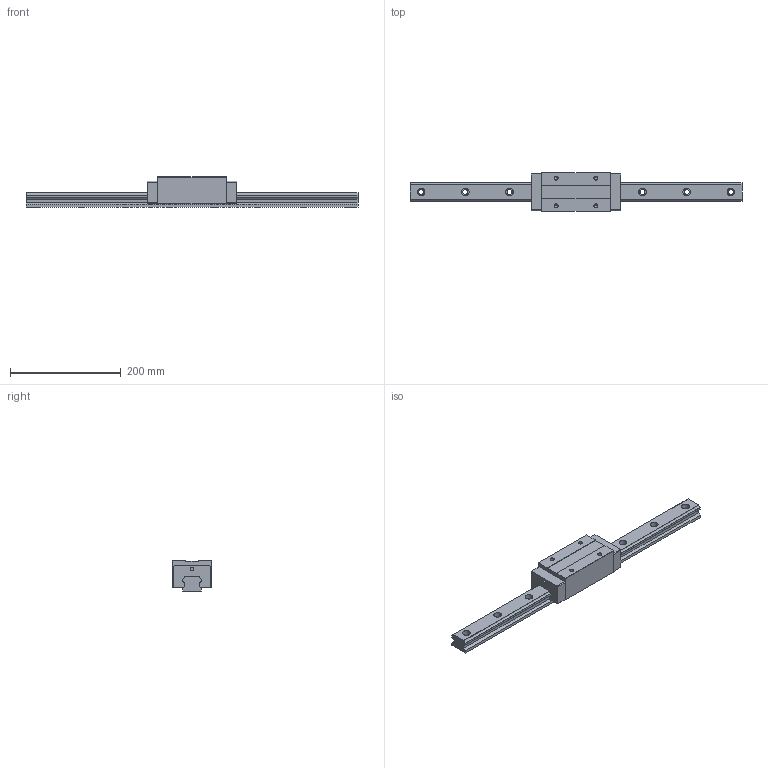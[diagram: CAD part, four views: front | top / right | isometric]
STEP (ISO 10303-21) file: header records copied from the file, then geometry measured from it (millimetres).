
FILE_DESCRIPTION (( 'STEP AP203' ), '1' );
FILE_NAME ('TRH35VE-ZN-§ï.STEP', '2023-08-31T00:31:35', ( '' ), ( '' ), 'SwSTEP 2.0', 'SolidWorks 2022', '' );
FILE_SCHEMA (( 'CONFIG_CONTROL_DESIGN' ));
Length unit declared in the file: millimetre
Products named in the file (1): TRH35VE-ZN-改
Bounding box: 600 x 70 x 55 mm (x, y, z)
Volume: 868898.7 mm3; surface area: 127784 mm2
Topology: 1 solids, 1 shells, 170 faces, 464 edges, 300 vertices
Faces by surface type: cylinder 80, plane 74, cone 16
Entity records: 5465 total; most frequent: DIRECTION 966, CARTESIAN_POINT 927, ORIENTED_EDGE 912, EDGE_CURVE 456, AXIS2_PLACEMENT_3D 339, VERTEX_POINT 300, LINE 288, VECTOR 288
